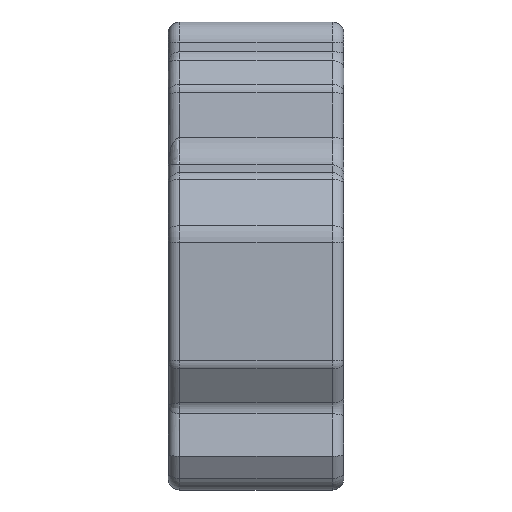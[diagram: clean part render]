
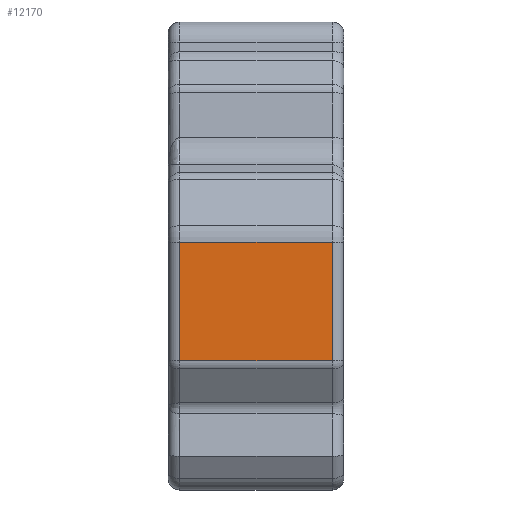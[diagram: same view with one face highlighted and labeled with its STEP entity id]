
A CAD part, left-side view. The second image highlights one B-rep face of the part: STEP entity #12170.
In plain terms, the highlighted planar face has unit normal (-1, 0, 0).
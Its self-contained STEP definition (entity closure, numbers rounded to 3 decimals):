
#216 = ORIENTED_EDGE ( 'NONE', *, *, #11701, .T. ) ;
#314 = CARTESIAN_POINT ( 'NONE',  ( -150., 0., -57.924 ) ) ;
#671 = LINE ( 'NONE', #10582, #4671 ) ;
#737 = CARTESIAN_POINT ( 'NONE',  ( -150., 28., -57.924 ) ) ;
#1094 = CARTESIAN_POINT ( 'NONE',  ( -150., 2., 0. ) ) ;
#1126 = DIRECTION ( 'NONE',  ( 1., 0., 0. ) ) ;
#1351 = DIRECTION ( 'NONE',  ( 0., -1., 0. ) ) ;
#1861 = ORIENTED_EDGE ( 'NONE', *, *, #9093, .T. ) ;
#1865 = EDGE_CURVE ( 'NONE', #10577, #9617, #11306, .T. ) ;
#2104 = FACE_OUTER_BOUND ( 'NONE', #6075, .T. ) ;
#2480 = CARTESIAN_POINT ( 'NONE',  ( -150., 28., -58.677 ) ) ;
#3461 = DIRECTION ( 'NONE',  ( 0., 0., -1. ) ) ;
#4198 = EDGE_CURVE ( 'NONE', #6703, #10577, #671, .T. ) ;
#4489 = VECTOR ( 'NONE', #1351, 1000. ) ;
#4671 = VECTOR ( 'NONE', #11686, 1000. ) ;
#5313 = VERTEX_POINT ( 'NONE', #9580 ) ;
#5892 = CARTESIAN_POINT ( 'NONE',  ( -150., 2., -37.657 ) ) ;
#5982 = CARTESIAN_POINT ( 'NONE',  ( -150., 28., -37.657 ) ) ;
#6075 = EDGE_LOOP ( 'NONE', ( #1861, #216, #11209, #11963 ) ) ;
#6124 = DIRECTION ( 'NONE',  ( 0., 0., 1. ) ) ;
#6703 = VERTEX_POINT ( 'NONE', #5892 ) ;
#7256 = AXIS2_PLACEMENT_3D ( 'NONE', #9950, #1126, #8995 ) ;
#7652 = VECTOR ( 'NONE', #6124, 1000. ) ;
#8841 = LINE ( 'NONE', #1094, #7652 ) ;
#8995 = DIRECTION ( 'NONE',  ( 0., 0., -1. ) ) ;
#9093 = EDGE_CURVE ( 'NONE', #9617, #5313, #11389, .T. ) ;
#9580 = CARTESIAN_POINT ( 'NONE',  ( -150., 2., -57.924 ) ) ;
#9617 = VERTEX_POINT ( 'NONE', #737 ) ;
#9950 = CARTESIAN_POINT ( 'NONE',  ( -150., 30., 0. ) ) ;
#10013 = PLANE ( 'NONE',  #7256 ) ;
#10577 = VERTEX_POINT ( 'NONE', #5982 ) ;
#10582 = CARTESIAN_POINT ( 'NONE',  ( -150., 28., -37.657 ) ) ;
#10864 = VECTOR ( 'NONE', #3461, 1000. ) ;
#11209 = ORIENTED_EDGE ( 'NONE', *, *, #4198, .T. ) ;
#11306 = LINE ( 'NONE', #2480, #10864 ) ;
#11389 = LINE ( 'NONE', #314, #4489 ) ;
#11686 = DIRECTION ( 'NONE',  ( 0., 1., 0. ) ) ;
#11701 = EDGE_CURVE ( 'NONE', #5313, #6703, #8841, .T. ) ;
#11963 = ORIENTED_EDGE ( 'NONE', *, *, #1865, .T. ) ;
#12170 = ADVANCED_FACE ( 'NONE', ( #2104 ), #10013, .F. ) ;
